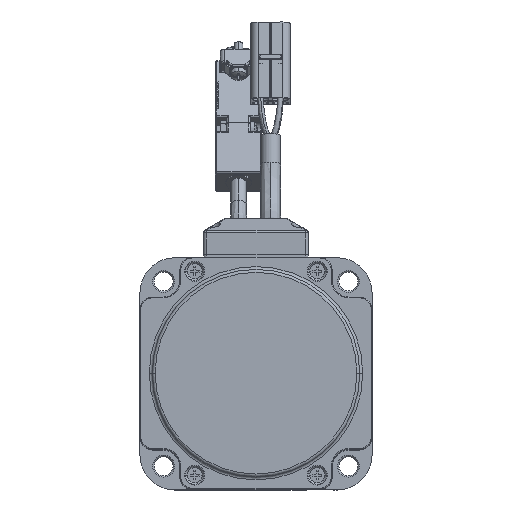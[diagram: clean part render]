
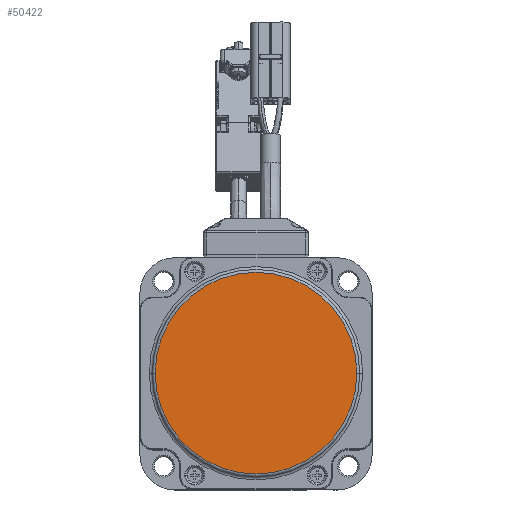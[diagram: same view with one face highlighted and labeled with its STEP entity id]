
A CAD part, top view. The second image highlights one B-rep face of the part: STEP entity #50422.
In plain terms, the highlighted planar face has unit normal (0, 0, 1).
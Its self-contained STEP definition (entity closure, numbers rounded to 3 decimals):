
#11813 = FACE_OUTER_BOUND ( 'NONE', #49051, .T. ) ;
#12677 = CIRCLE ( 'NONE', #12678, 34.75 ) ;
#12678 = AXIS2_PLACEMENT_3D ( 'NONE', #14563, #14564, #14565 ) ;
#12902 = CIRCLE ( 'NONE', #12914, 34.75 ) ;
#12914 = AXIS2_PLACEMENT_3D ( 'NONE', #16001, #16002, #16003 ) ;
#13086 = AXIS2_PLACEMENT_3D ( 'NONE', #16341, #16342, #16343 ) ;
#14563 = CARTESIAN_POINT ( 'NONE',  ( 0., 0., 6.5 ) ) ;
#14564 = DIRECTION ( 'NONE',  ( 0., 0., 1. ) ) ;
#14565 = DIRECTION ( 'NONE',  ( 1., 0., 0. ) ) ;
#16001 = CARTESIAN_POINT ( 'NONE',  ( 0., 0., 6.5 ) ) ;
#16002 = DIRECTION ( 'NONE',  ( 0., 0., 1. ) ) ;
#16003 = DIRECTION ( 'NONE',  ( 1., 0., 0. ) ) ;
#16340 = PLANE ( 'NONE',  #13086 ) ;
#16341 = CARTESIAN_POINT ( 'NONE',  ( 0., 0., 6.5 ) ) ;
#16342 = DIRECTION ( 'NONE',  ( 0., 0., 1. ) ) ;
#16343 = DIRECTION ( 'NONE',  ( 1., 0., 0. ) ) ;
#41429 = VERTEX_POINT ( 'NONE', #72141 ) ;
#41430 = VERTEX_POINT ( 'NONE', #72142 ) ;
#49051 = EDGE_LOOP ( 'NONE', ( #51459, #51460 ) ) ;
#50080 = EDGE_CURVE ( 'NONE', #41430, #41429, #12677, .T. ) ;
#50306 = EDGE_CURVE ( 'NONE', #41429, #41430, #12902, .T. ) ;
#50422 = ADVANCED_FACE ( 'NONE', ( #11813 ), #16340, .T. ) ;
#51459 = ORIENTED_EDGE ( 'NONE', *, *, #50080, .T. ) ;
#51460 = ORIENTED_EDGE ( 'NONE', *, *, #50306, .T. ) ;
#72141 = CARTESIAN_POINT ( 'NONE',  ( -34.75, 0., 6.5 ) ) ;
#72142 = CARTESIAN_POINT ( 'NONE',  ( 34.75, 0., 6.5 ) ) ;
